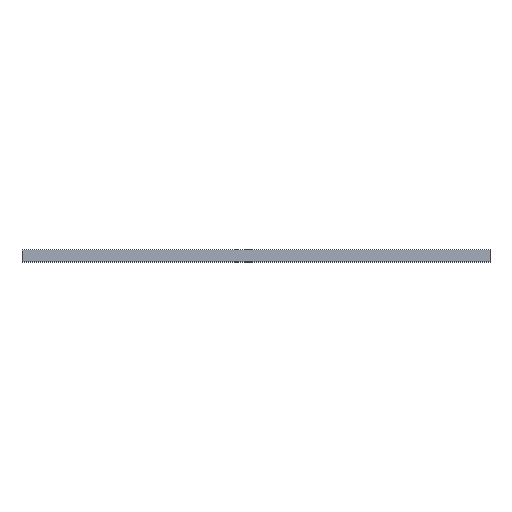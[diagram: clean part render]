
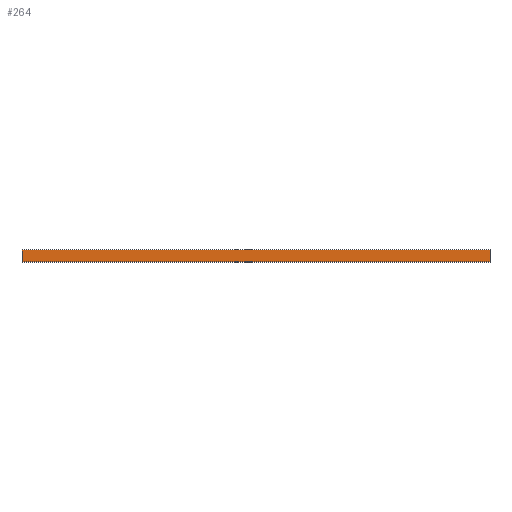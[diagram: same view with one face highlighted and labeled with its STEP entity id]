
A CAD part, top view. The second image highlights one B-rep face of the part: STEP entity #264.
In plain terms, the highlighted planar face has unit normal (0, 0, 1).
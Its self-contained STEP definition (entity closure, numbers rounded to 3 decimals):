
#264=ADVANCED_FACE('',(#538),#539,.T.);
#538=FACE_OUTER_BOUND('',#815,.T.);
#539=PLANE('',#816);
#815=EDGE_LOOP('',(#1553,#1554,#1555,#1556));
#816=AXIS2_PLACEMENT_3D('',#1557,#1558,#1559);
#1553=ORIENTED_EDGE('',*,*,#1952,.T.);
#1554=ORIENTED_EDGE('',*,*,#1990,.T.);
#1555=ORIENTED_EDGE('',*,*,#1992,.F.);
#1556=ORIENTED_EDGE('',*,*,#1993,.F.);
#1557=CARTESIAN_POINT('',(2500.0,-15.5,0.));
#1558=DIRECTION('',(0.0,0.,1.0));
#1559=DIRECTION('',(0.0,1.0,0.));
#1952=EDGE_CURVE('',#2419,#2417,#2420,.T.);
#1990=EDGE_CURVE('',#2417,#2472,#2474,.T.);
#1992=EDGE_CURVE('',#2476,#2472,#2477,.T.);
#1993=EDGE_CURVE('',#2419,#2476,#2478,.T.);
#2417=VERTEX_POINT('',#3065);
#2419=VERTEX_POINT('',#3068);
#2420=LINE('',#3069,#3070);
#2472=VERTEX_POINT('',#3147);
#2474=LINE('',#3150,#3151);
#2476=VERTEX_POINT('',#3153);
#2477=LINE('',#3154,#3155);
#2478=LINE('',#3156,#3157);
#3065=CARTESIAN_POINT('',(2050.0,36.0,0.));
#3068=CARTESIAN_POINT('',(2050.0,-15.5,0.));
#3069=CARTESIAN_POINT('',(2050.0,-15.5,0.));
#3070=VECTOR('',#3491,1.0);
#3147=CARTESIAN_POINT('',(0.0,36.0,0.));
#3150=CARTESIAN_POINT('',(2500.0,36.0,0.));
#3151=VECTOR('',#3518,1.0);
#3153=CARTESIAN_POINT('',(0.0,-15.5,0.));
#3154=CARTESIAN_POINT('',(0.0,-15.5,0.));
#3155=VECTOR('',#3519,1.0);
#3156=CARTESIAN_POINT('',(2500.0,-15.5,0.));
#3157=VECTOR('',#3520,1.0);
#3491=DIRECTION('',(0.0,1.0,0.));
#3518=DIRECTION('',(-1.0,0.0,0.0));
#3519=DIRECTION('',(0.0,1.0,0.));
#3520=DIRECTION('',(-1.0,0.0,0.0));
